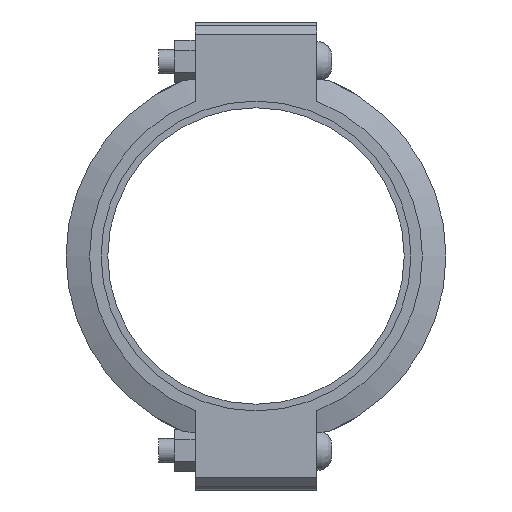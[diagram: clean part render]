
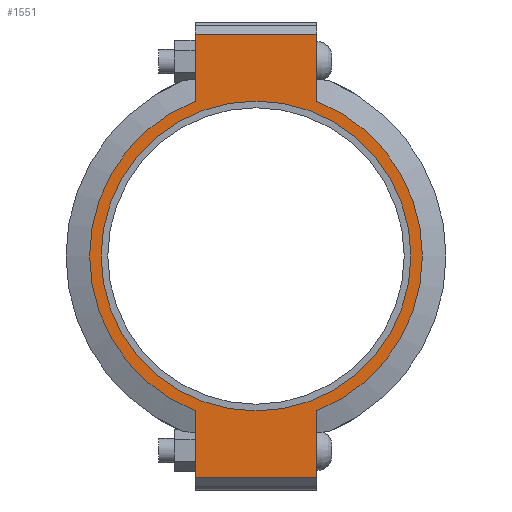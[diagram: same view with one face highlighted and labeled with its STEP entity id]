
A CAD part, left-side view. The second image highlights one B-rep face of the part: STEP entity #1551.
In plain terms, the highlighted planar face has unit normal (-1, 0, 0) as drawn and (0, 0, 1) by its records, which use the part's own axes.
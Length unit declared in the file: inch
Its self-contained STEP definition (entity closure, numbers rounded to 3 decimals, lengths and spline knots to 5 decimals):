
#178=LINE('',#2663,#265);
#189=LINE('',#2714,#276);
#195=LINE('',#2740,#282);
#197=LINE('',#2743,#284);
#198=LINE('',#2748,#285);
#199=LINE('',#2749,#286);
#265=VECTOR('',#2153,0.3937);
#276=VECTOR('',#2184,0.3937);
#282=VECTOR('',#2202,0.3937);
#284=VECTOR('',#2206,0.3937);
#285=VECTOR('',#2211,0.3937);
#286=VECTOR('',#2212,0.3937);
#344=FACE_BOUND('',#503,.T.);
#404=FACE_OUTER_BOUND('',#502,.T.);
#502=EDGE_LOOP('',(#1240,#1241,#1242,#1243,#1244,#1245,#1246,#1247));
#503=EDGE_LOOP('',(#1248));
#608=CIRCLE('',#1814,6.84375);
#609=CIRCLE('',#1815,6.84375);
#610=CIRCLE('',#1816,6.375);
#717=VERTEX_POINT('',#2660);
#718=VERTEX_POINT('',#2662);
#735=VERTEX_POINT('',#2709);
#736=VERTEX_POINT('',#2713);
#743=VERTEX_POINT('',#2735);
#744=VERTEX_POINT('',#2739);
#745=VERTEX_POINT('',#2745);
#746=VERTEX_POINT('',#2747);
#747=VERTEX_POINT('',#2751);
#887=EDGE_CURVE('',#718,#717,#178,.T.);
#908=EDGE_CURVE('',#736,#735,#189,.T.);
#919=EDGE_CURVE('',#744,#743,#195,.T.);
#921=EDGE_CURVE('',#744,#717,#197,.T.);
#922=EDGE_CURVE('',#743,#745,#608,.T.);
#923=EDGE_CURVE('',#745,#746,#198,.T.);
#924=EDGE_CURVE('',#736,#746,#199,.T.);
#925=EDGE_CURVE('',#735,#718,#609,.T.);
#926=EDGE_CURVE('',#747,#747,#610,.T.);
#1240=ORIENTED_EDGE('',*,*,#921,.F.);
#1241=ORIENTED_EDGE('',*,*,#919,.T.);
#1242=ORIENTED_EDGE('',*,*,#922,.T.);
#1243=ORIENTED_EDGE('',*,*,#923,.T.);
#1244=ORIENTED_EDGE('',*,*,#924,.F.);
#1245=ORIENTED_EDGE('',*,*,#908,.T.);
#1246=ORIENTED_EDGE('',*,*,#925,.T.);
#1247=ORIENTED_EDGE('',*,*,#887,.T.);
#1248=ORIENTED_EDGE('',*,*,#926,.T.);
#1403=PLANE('',#1813);
#1551=ADVANCED_FACE('',(#404,#344),#1403,.T.);
#1813=AXIS2_PLACEMENT_3D('',#2744,#2207,#2208);
#1814=AXIS2_PLACEMENT_3D('',#2746,#2209,#2210);
#1815=AXIS2_PLACEMENT_3D('',#2750,#2213,#2214);
#1816=AXIS2_PLACEMENT_3D('',#2752,#2215,#2216);
#2153=DIRECTION('',(1.,0.,0.));
#2184=DIRECTION('',(1.,0.,0.));
#2202=DIRECTION('',(-1.,0.,0.));
#2206=DIRECTION('',(0.,-1.,0.));
#2207=DIRECTION('center_axis',(0.,0.,1.));
#2208=DIRECTION('ref_axis',(-1.,0.,0.));
#2209=DIRECTION('center_axis',(0.,0.,1.));
#2210=DIRECTION('ref_axis',(1.,0.,0.));
#2211=DIRECTION('',(-1.,0.,0.));
#2212=DIRECTION('',(0.,1.,0.));
#2213=DIRECTION('center_axis',(0.,0.,1.));
#2214=DIRECTION('ref_axis',(1.,0.,0.));
#2215=DIRECTION('center_axis',(0.,0.,-1.));
#2216=DIRECTION('ref_axis',(1.,0.,0.));
#2660=CARTESIAN_POINT('',(9.125,-2.5,1.315));
#2662=CARTESIAN_POINT('',(6.37079,-2.5,1.315));
#2663=CARTESIAN_POINT('',(-9.625,-2.5,1.315));
#2709=CARTESIAN_POINT('',(-6.37079,-2.5,1.315));
#2713=CARTESIAN_POINT('',(-9.125,-2.5,1.315));
#2714=CARTESIAN_POINT('',(-9.625,-2.5,1.315));
#2735=CARTESIAN_POINT('',(6.37079,2.5,1.315));
#2739=CARTESIAN_POINT('',(9.125,2.5,1.315));
#2740=CARTESIAN_POINT('',(9.625,2.5,1.315));
#2743=CARTESIAN_POINT('',(9.125,-1.25,1.315));
#2744=CARTESIAN_POINT('Origin',(0.,0.,
1.315));
#2745=CARTESIAN_POINT('',(-6.37079,2.5,1.315));
#2746=CARTESIAN_POINT('Origin',(0.,0.,1.315));
#2747=CARTESIAN_POINT('',(-9.125,2.5,1.315));
#2748=CARTESIAN_POINT('',(9.625,2.5,1.315));
#2749=CARTESIAN_POINT('',(-9.125,1.25,1.315));
#2750=CARTESIAN_POINT('Origin',(0.,0.,1.315));
#2751=CARTESIAN_POINT('',(-6.375,0.,1.315));
#2752=CARTESIAN_POINT('Origin',(0.,0.,1.315));
